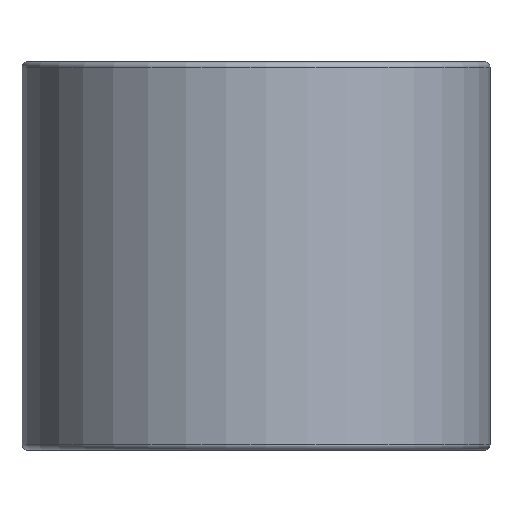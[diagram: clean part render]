
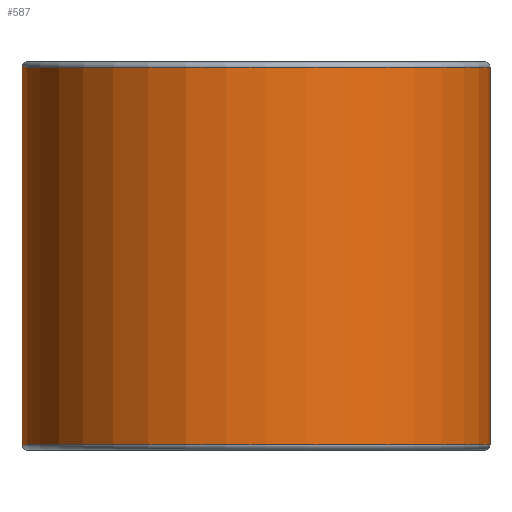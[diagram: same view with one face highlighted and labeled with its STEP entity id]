
A CAD part, front view. The second image highlights one B-rep face of the part: STEP entity #587.
In plain terms, the highlighted cylindrical face has radius 20.5 mm (diameter 41 mm), a full revolution.
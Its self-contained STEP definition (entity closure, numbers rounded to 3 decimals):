
#587=ADVANCED_FACE('',(#699,#700),#658,.T.);
#658=CYLINDRICAL_SURFACE('',#1517,20.5);
#699=FACE_BOUND('',#776,.T.);
#700=FACE_BOUND('',#777,.T.);
#776=EDGE_LOOP('',(#911));
#777=EDGE_LOOP('',(#912));
#911=ORIENTED_EDGE('',*,*,#1297,.T.);
#912=ORIENTED_EDGE('',*,*,#1298,.T.);
#1185=VERTEX_POINT('',#2148);
#1186=VERTEX_POINT('',#2150);
#1297=EDGE_CURVE('',#1185,#1185,#1431,.T.);
#1298=EDGE_CURVE('',#1186,#1186,#1432,.T.);
#1431=CIRCLE('',#1515,20.5);
#1432=CIRCLE('',#1516,20.5);
#1515=AXIS2_PLACEMENT_3D('',#2147,#1705,#1706);
#1516=AXIS2_PLACEMENT_3D('',#2149,#1707,#1708);
#1517=AXIS2_PLACEMENT_3D('',#2151,#1709,#1710);
#1705=DIRECTION('',(0.,0.,-1.));
#1706=DIRECTION('',(1.,0.,0.));
#1707=DIRECTION('',(0.,0.,1.));
#1708=DIRECTION('',(1.,0.,0.));
#1709=DIRECTION('',(0.,0.,-1.));
#1710=DIRECTION('',(-1.,0.,0.));
#2147=CARTESIAN_POINT('',(0.,0.,33.5));
#2148=CARTESIAN_POINT('',(20.5,0.,33.5));
#2149=CARTESIAN_POINT('',(0.,0.,0.5));
#2150=CARTESIAN_POINT('',(20.5,0.,0.5));
#2151=CARTESIAN_POINT('',(0.,0.,34.));
